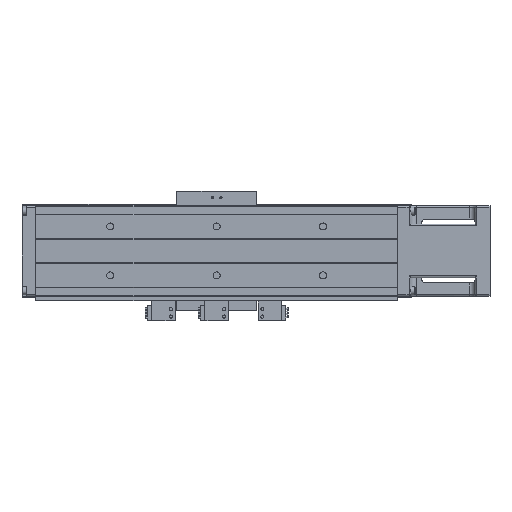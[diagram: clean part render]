
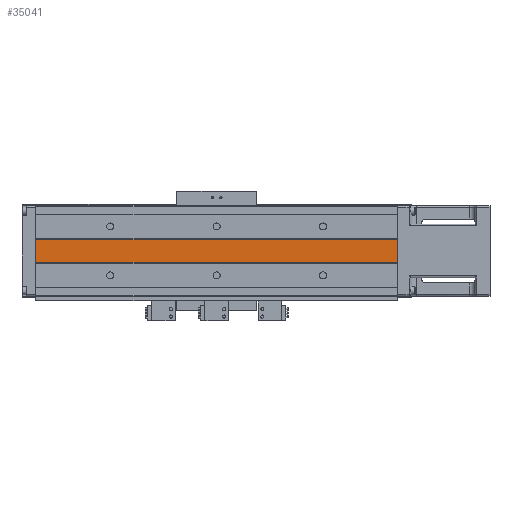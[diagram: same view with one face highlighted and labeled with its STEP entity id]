
A CAD part, front view. The second image highlights one B-rep face of the part: STEP entity #35041.
In plain terms, the highlighted planar face has unit normal (0, -1, 0).
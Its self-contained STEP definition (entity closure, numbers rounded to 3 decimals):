
#69 = EDGE_LOOP ( 'NONE', ( #20077, #23408, #16091, #39320 ) ) ;
#446 = DIRECTION ( 'NONE',  ( 1., 0., 0. ) ) ;
#2831 = VECTOR ( 'NONE', #20536, 1000. ) ;
#3242 = EDGE_CURVE ( 'NONE', #20723, #30873, #24155, .T. ) ;
#3534 = CARTESIAN_POINT ( 'NONE',  ( -220., -31.5, -5.5 ) ) ;
#3919 = CARTESIAN_POINT ( 'NONE',  ( 120., -31.5, 11. ) ) ;
#5699 = DIRECTION ( 'NONE',  ( -1., 0., 0. ) ) ;
#6736 = LINE ( 'NONE', #3534, #29807 ) ;
#9310 = CARTESIAN_POINT ( 'NONE',  ( 120., -31.5, -11. ) ) ;
#9786 = VECTOR ( 'NONE', #27483, 1000. ) ;
#10255 = FACE_OUTER_BOUND ( 'NONE', #69, .T. ) ;
#11192 = EDGE_CURVE ( 'NONE', #26932, #36827, #36973, .T. ) ;
#12408 = DIRECTION ( 'NONE',  ( 0., -1., 0. ) ) ;
#12737 = CARTESIAN_POINT ( 'NONE',  ( 120., -31.5, -11. ) ) ;
#16091 = ORIENTED_EDGE ( 'NONE', *, *, #37298, .F. ) ;
#16654 = EDGE_CURVE ( 'NONE', #20723, #26932, #6736, .T. ) ;
#18789 = CARTESIAN_POINT ( 'NONE',  ( -620., -31.5, 11. ) ) ;
#20077 = ORIENTED_EDGE ( 'NONE', *, *, #16654, .T. ) ;
#20536 = DIRECTION ( 'NONE',  ( 1., 0., 0. ) ) ;
#20723 = VERTEX_POINT ( 'NONE', #39855 ) ;
#21414 = PLANE ( 'NONE',  #35796 ) ;
#23408 = ORIENTED_EDGE ( 'NONE', *, *, #11192, .T. ) ;
#24155 = LINE ( 'NONE', #18789, #36653 ) ;
#24691 = LINE ( 'NONE', #27228, #9786 ) ;
#25009 = DIRECTION ( 'NONE',  ( 0., 0., -1. ) ) ;
#26731 = CARTESIAN_POINT ( 'NONE',  ( -620., -31.5, -11. ) ) ;
#26932 = VERTEX_POINT ( 'NONE', #38856 ) ;
#27228 = CARTESIAN_POINT ( 'NONE',  ( 120., -31.5, 11. ) ) ;
#27483 = DIRECTION ( 'NONE',  ( 0., 0., -1. ) ) ;
#29807 = VECTOR ( 'NONE', #25009, 1000. ) ;
#30873 = VERTEX_POINT ( 'NONE', #3919 ) ;
#35041 = ADVANCED_FACE ( 'NONE', ( #10255 ), #21414, .T. ) ;
#35796 = AXIS2_PLACEMENT_3D ( 'NONE', #9310, #12408, #5699 ) ;
#36653 = VECTOR ( 'NONE', #446, 1000. ) ;
#36827 = VERTEX_POINT ( 'NONE', #12737 ) ;
#36973 = LINE ( 'NONE', #26731, #2831 ) ;
#37298 = EDGE_CURVE ( 'NONE', #30873, #36827, #24691, .T. ) ;
#38856 = CARTESIAN_POINT ( 'NONE',  ( -220., -31.5, -11. ) ) ;
#39320 = ORIENTED_EDGE ( 'NONE', *, *, #3242, .F. ) ;
#39855 = CARTESIAN_POINT ( 'NONE',  ( -220., -31.5, 11. ) ) ;
